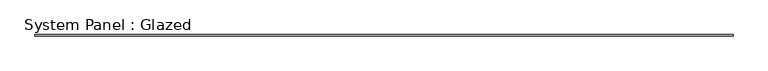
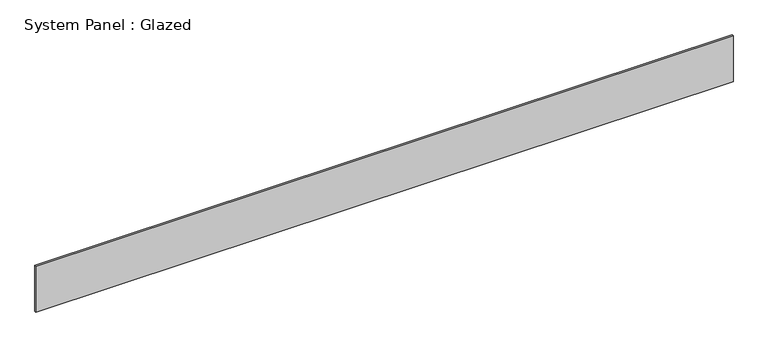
"""IFC4 building model written with IfcOpenShell, lengths in millimetres: plate geometry, System Panel : Glazed."""

import ifcopenshell
import ifcopenshell.guid

model = None  # the IFC model being written
_history = None  # IfcOwnerHistory: only IFC2X3 demands one
_inside = {}  # id of a spatial element -> (the spatial element, [elements in it])
_under = {}  # id of a project, library or spatial element -> (it, [spatial elements below it])
_declared = {}  # id of a project -> (the project, [libraries it declares])
_typed = {}  # id of a type object -> (the type object, [elements of that type])
_made_of = {}  # id of a material, layer set ... -> (it, [elements and type objects made of it])


def new_model(schema):
    """Start an empty IFC model of exactly this schema.

    Asked for "IFC4X3", IfcOpenShell would pick the latest addendum, in which some entities
    have other attributes; the version numbers below select the first issue.
    IFC2X3 requires an IfcOwnerHistory on every rooted entity: one is made here for all.
    """
    global model, _history
    if schema == "IFC4X3":
        model = ifcopenshell.file(schema_version=(4, 3, 0, 0))
    else:
        model = ifcopenshell.file(schema=schema)
    _inside.clear()
    _under.clear()
    _declared.clear()
    _typed.clear()
    _made_of.clear()
    _history = None
    if model.schema == "IFC2X3":
        org = make("IfcOrganization", Name="unknown")
        user = make(
            "IfcPersonAndOrganization",
            ThePerson=make("IfcPerson", FamilyName="unknown"),
            TheOrganization=org,
        )
        app = make(
            "IfcApplication",
            ApplicationDeveloper=org,
            Version="unknown",
            ApplicationFullName="unknown",
            ApplicationIdentifier="unknown",
        )
        _history = make(
            "IfcOwnerHistory",
            OwningUser=user,
            OwningApplication=app,
            ChangeAction="ADDED",
            CreationDate=0,
        )
    return model


def make(cls, **values):
    """One entity of the class cls with the attributes given. An attribute that is None is left unset."""
    return model.create_entity(
        cls, **{name: value for name, value in values.items() if value is not None}
    )


def rooted(cls, **values):
    """An entity with a GlobalId (a new one), such as an element, a storey or a relation."""
    return make(cls, GlobalId=ifcopenshell.guid.new(), OwnerHistory=_history, **values)


def si_unit(unit_type, name, prefix=None):
    """IfcSIUnit, for example si_unit("LENGTHUNIT", "METRE", prefix="MILLI")."""
    return make("IfcSIUnit", UnitType=unit_type, Prefix=prefix, Name=name)


def assignment(units):
    """IfcUnitAssignment: the units of a project."""
    return None if units is None else make("IfcUnitAssignment", Units=units)


def point(xyz):
    """IfcCartesianPoint."""
    return None if xyz is None else make("IfcCartesianPoint", Coordinates=xyz)


def direction(xyz):
    """IfcDirection."""
    return None if xyz is None else make("IfcDirection", DirectionRatios=xyz)


def frame(location, z_axis=None, x_axis=None):
    """IfcAxis2Placement3D, a coordinate frame: its origin and axes. An axis left out is left unset."""
    return make(
        "IfcAxis2Placement3D",
        Location=point(location),
        Axis=direction(z_axis),
        RefDirection=direction(x_axis),
    )


def origin():
    """The frame at (0, 0, 0) with its axes left unset."""
    return frame((0.0, 0.0, 0.0))


def origin_with_axes():
    """The frame at (0, 0, 0) with the z axis (0, 0, 1) and the x axis (1, 0, 0) written out."""
    return frame((0.0, 0.0, 0.0), z_axis=(0.0, 0.0, 1.0), x_axis=(1.0, 0.0, 0.0))


def place(relative_to, where):
    """IfcLocalPlacement: puts the frame where relative to a parent placement (None: the world)."""
    return make(
        "IfcLocalPlacement", PlacementRelTo=relative_to, RelativePlacement=where
    )


def context(
    kind, dimensions, precision=None, world=None, true_north=None, identifier=None
):
    """IfcGeometricRepresentationContext, for example the 3D "Model" context."""
    return make(
        "IfcGeometricRepresentationContext",
        ContextIdentifier=identifier,
        ContextType=kind,
        CoordinateSpaceDimension=dimensions,
        Precision=precision,
        WorldCoordinateSystem=world,
        TrueNorth=true_north,
    )


def project(units=None, contexts=None):
    """IfcProject with its units and contexts."""
    return rooted(
        "IfcProject",
        Name="project",
        RepresentationContexts=contexts,
        UnitsInContext=assignment(units),
    )


def spatial(cls, under=None, at=None, **own):
    """A site, building, storey or space (cls), placed at a placement, below another one or the project."""
    s = rooted(cls, ObjectPlacement=at, **own)
    if under is not None:
        _under.setdefault(under.id(), (under, []))[1].append(s)
    return s


def polyline(points):
    """IfcPolyline through the points."""
    return make("IfcPolyline", Points=[point(p) for p in points])


def outline(outer, holes=None, kind="AREA"):
    """IfcArbitraryClosedProfileDef: a profile drawn as a closed curve; with holes, ...WithVoids."""
    if holes is None:
        return make("IfcArbitraryClosedProfileDef", ProfileType=kind, OuterCurve=outer)
    return make(
        "IfcArbitraryProfileDefWithVoids",
        ProfileType=kind,
        OuterCurve=outer,
        InnerCurves=holes,
    )


def extrude(swept, where, along, depth):
    """IfcExtrudedAreaSolid: the profile swept, set in the frame where, extruded along a direction by depth."""
    return make(
        "IfcExtrudedAreaSolid",
        SweptArea=swept,
        Position=where,
        ExtrudedDirection=direction(along),
        Depth=depth,
    )


def shape(context_of_items, identifier, shape_type, items):
    """IfcShapeRepresentation: the items that make up one representation, for example the "Body"."""
    return make(
        "IfcShapeRepresentation",
        ContextOfItems=context_of_items,
        RepresentationIdentifier=identifier,
        RepresentationType=shape_type,
        Items=items,
    )


def source(mapping_origin, context_of_items, identifier, shape_type, items):
    """IfcRepresentationMap: a shape defined once, which mapped items show again and again."""
    return make(
        "IfcRepresentationMap",
        MappingOrigin=mapping_origin,
        MappedRepresentation=shape(context_of_items, identifier, shape_type, items),
    )


def transform(
    local_origin,
    x_axis=None,
    y_axis=None,
    z_axis=None,
    scale=None,
    scale2=None,
    scale3=None,
    uniform=True,
):
    """IfcCartesianTransformationOperator3D, or its non-uniform kind. x_axis, y_axis, z_axis: its Axis1, 2, 3."""
    if uniform:
        return make(
            "IfcCartesianTransformationOperator3D",
            Axis1=direction(x_axis),
            Axis2=direction(y_axis),
            LocalOrigin=point(local_origin),
            Scale=scale,
            Axis3=direction(z_axis),
        )
    return make(
        "IfcCartesianTransformationOperator3DnonUniform",
        Axis1=direction(x_axis),
        Axis2=direction(y_axis),
        LocalOrigin=point(local_origin),
        Scale=scale,
        Axis3=direction(z_axis),
        Scale2=scale2,
        Scale3=scale3,
    )


def mapped(mapping_source, mapping_target):
    """IfcMappedItem: shows the shape of a source again, moved by a transform."""
    return make(
        "IfcMappedItem", MappingSource=mapping_source, MappingTarget=mapping_target
    )


def made_of(thing, what):
    """Note that an element or type object is made of a material, layer set ...; save() writes the relation."""
    if what is not None:
        _made_of.setdefault(what.id(), (what, []))[1].append(thing)
    return thing


def element(
    cls,
    number,
    at=None,
    inside=None,
    cuts=None,
    type_object=None,
    material=None,
    context=None,
    identifier="Body",
    shape_type=None,
    held_by="IfcProductDefinitionShape",
    body=None,
    shapes=None,
    **own,
):
    """One element of the class cls, such as IfcWall. Its Tag is "e" and its number.

    at: its placement. inside: the storey or other place that contains it. cuts: it is an
    opening in that element (IfcRelVoidsElement). A single representation is given by context,
    identifier, shape_type and body (its items); several are given by shapes. held_by: the class
    of the entity that holds the representations. save() writes the other relations.
    """
    e = rooted(cls, Tag="e%d" % number, ObjectPlacement=at, **own)
    if body is not None:
        shapes = [shape(context, identifier, shape_type, body)]
    if shapes is not None:
        e.Representation = make(held_by, Representations=shapes)
    if inside is not None:
        _inside.setdefault(inside.id(), (inside, []))[1].append(e)
    if cuts is not None:
        rooted(
            "IfcRelVoidsElement", RelatingBuildingElement=cuts, RelatedOpeningElement=e
        )
    if type_object is not None:
        _typed.setdefault(type_object.id(), (type_object, []))[1].append(e)
    return made_of(e, material)


def aggregate(whole, parts):
    """IfcRelAggregates: a whole, such as a stair, and the parts it consists of."""
    return rooted("IfcRelAggregates", RelatingObject=whole, RelatedObjects=parts)


def save(model, path):
    """Write the relations noted so far, then the file.

    IfcRelAggregates (storeys below a building ...), IfcRelContainedInSpatialStructure (elements
    in a storey), IfcRelDefinesByType, IfcRelAssociatesMaterial and IfcRelDeclares: one each for
    every whole, place, type object, material and project.
    """
    for whole, parts in _under.values():
        aggregate(whole, parts)
    for where, things in _inside.values():
        rooted(
            "IfcRelContainedInSpatialStructure",
            RelatedElements=things,
            RelatingStructure=where,
        )
    for kind, things in _typed.values():
        rooted("IfcRelDefinesByType", RelatedObjects=things, RelatingType=kind)
    for what, things in _made_of.values():
        rooted("IfcRelAssociatesMaterial", RelatedObjects=things, RelatingMaterial=what)
    for by, libraries in _declared.values():
        rooted("IfcRelDeclares", RelatingContext=by, RelatedDefinitions=libraries)
    model.write(path)


def system_panel_glazed_b8300c30(model_context):
    return source(origin(), model_context, "Body", "SweptSolid", [
        extrude(outline(polyline([(7181.9925385, 24.5), (-7181.9925385, 24.5), (-7181.9925385, 49.5), (7181.9925385, 49.5), (7181.9925385, 24.5)])), origin_with_axes(), (0.0, 0.0, 1.0), 1000.0),
    ])


if __name__ == "__main__":
    model = new_model("IFC4")
    model_context = context("Model", 3, world=origin())
    ifc_project = project(units=[si_unit("LENGTHUNIT", "METRE", prefix="MILLI")], contexts=[model_context])
    site = spatial("IfcSite", under=ifc_project)
    building = spatial("IfcBuilding", under=site)
    placement = place(None, origin())
    system_panel_glazed_shape = system_panel_glazed_b8300c30(model_context)
    element("IfcPlate", 1, ObjectType="System Panel : Glazed", at=placement, inside=building, context=model_context, shape_type="MappedRepresentation", body=[
        mapped(system_panel_glazed_shape, transform((0.0, 0.0, 0.0), x_axis=(1.0, 0.0, 0.0), y_axis=(0.0, 1.0, 0.0), z_axis=(0.0, 0.0, 1.0))),
    ])
    save(model, "model.ifc")
